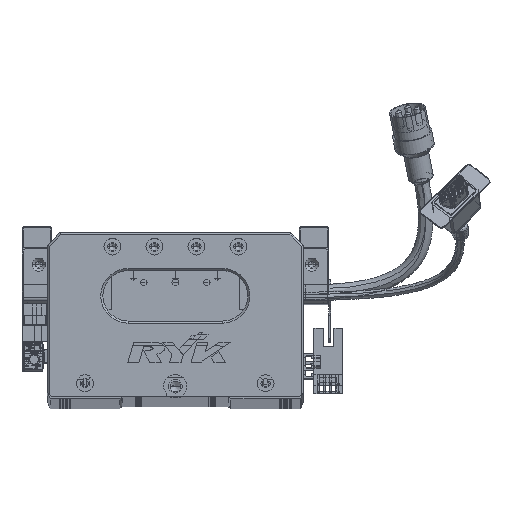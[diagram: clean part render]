
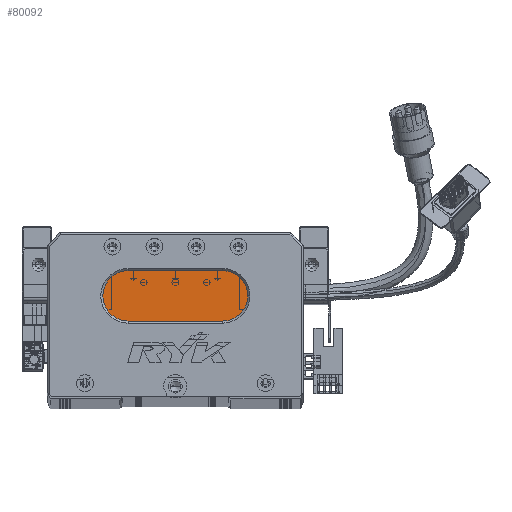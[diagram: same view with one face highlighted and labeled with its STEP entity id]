
A CAD part, top view. The second image highlights one B-rep face of the part: STEP entity #80092.
In plain terms, the highlighted planar face has unit normal (0, 0, 1) as drawn and (0, 0, -1) by its records, which use the part's own axes.
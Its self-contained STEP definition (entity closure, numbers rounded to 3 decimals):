
#1393 = AXIS2_PLACEMENT_3D ( 'NONE', #69492, #59659, #48458 ) ;
#2583 = DIRECTION ( 'NONE',  ( -1., 0., 0. ) ) ;
#3502 = CIRCLE ( 'NONE', #76875, 12. ) ;
#7378 = EDGE_CURVE ( 'NONE', #81448, #64502, #79730, .T. ) ;
#13847 = CARTESIAN_POINT ( 'NONE',  ( 83.5, 48., 13. ) ) ;
#16121 = CARTESIAN_POINT ( 'NONE',  ( 38.5, 36., 13. ) ) ;
#18800 = LINE ( 'NONE', #24728, #101578 ) ;
#20965 = VECTOR ( 'NONE', #54919, 1000. ) ;
#24728 = CARTESIAN_POINT ( 'NONE',  ( 83.5, 36., 13. ) ) ;
#25827 = EDGE_CURVE ( 'NONE', #64502, #91136, #18800, .T. ) ;
#27683 = CARTESIAN_POINT ( 'NONE',  ( 83.5, 60., 13. ) ) ;
#32155 = CARTESIAN_POINT ( 'NONE',  ( 38.5, 48., 13. ) ) ;
#38760 = EDGE_CURVE ( 'NONE', #47704, #81448, #59381, .T. ) ;
#43445 = DIRECTION ( 'NONE',  ( -1., 0., 0. ) ) ;
#47704 = VERTEX_POINT ( 'NONE', #48616 ) ;
#48458 = DIRECTION ( 'NONE',  ( -1., 0., 0. ) ) ;
#48616 = CARTESIAN_POINT ( 'NONE',  ( 38.5, 60., 13. ) ) ;
#49441 = AXIS2_PLACEMENT_3D ( 'NONE', #13847, #102123, #43445 ) ;
#49725 = ORIENTED_EDGE ( 'NONE', *, *, #7378, .T. ) ;
#54890 = VERTEX_POINT ( 'NONE', #102442 ) ;
#54919 = DIRECTION ( 'NONE',  ( 1., 0., 0. ) ) ;
#56156 = CARTESIAN_POINT ( 'NONE',  ( 83.5, 60., 13. ) ) ;
#58788 = DIRECTION ( 'NONE',  ( 0., 0., -1. ) ) ;
#58955 = AXIS2_PLACEMENT_3D ( 'NONE', #88734, #58788, #88318 ) ;
#59381 = LINE ( 'NONE', #56156, #20965 ) ;
#59659 = DIRECTION ( 'NONE',  ( 0., 0., -1. ) ) ;
#62131 = ORIENTED_EDGE ( 'NONE', *, *, #38760, .T. ) ;
#63130 = EDGE_CURVE ( 'NONE', #54890, #47704, #3502, .T. ) ;
#64502 = VERTEX_POINT ( 'NONE', #65286 ) ;
#65286 = CARTESIAN_POINT ( 'NONE',  ( 83.5, 36., 13. ) ) ;
#69492 = CARTESIAN_POINT ( 'NONE',  ( 38.5, 48., 13. ) ) ;
#70785 = DIRECTION ( 'NONE',  ( 0., 0., -1. ) ) ;
#72612 = PLANE ( 'NONE',  #49441 ) ;
#76875 = AXIS2_PLACEMENT_3D ( 'NONE', #32155, #70785, #2583 ) ;
#79730 = CIRCLE ( 'NONE', #58955, 12. ) ;
#80092 = ADVANCED_FACE ( 'NONE', ( #125157 ), #72612, .T. ) ;
#81448 = VERTEX_POINT ( 'NONE', #27683 ) ;
#88318 = DIRECTION ( 'NONE',  ( -1., 0., 0. ) ) ;
#88734 = CARTESIAN_POINT ( 'NONE',  ( 83.5, 48., 13. ) ) ;
#91136 = VERTEX_POINT ( 'NONE', #16121 ) ;
#92987 = ORIENTED_EDGE ( 'NONE', *, *, #63130, .T. ) ;
#99208 = CIRCLE ( 'NONE', #1393, 12. ) ;
#100970 = EDGE_LOOP ( 'NONE', ( #49725, #123482, #120311, #92987, #62131 ) ) ;
#101578 = VECTOR ( 'NONE', #102721, 1000. ) ;
#102123 = DIRECTION ( 'NONE',  ( 0., 0., -1. ) ) ;
#102442 = CARTESIAN_POINT ( 'NONE',  ( 26.5, 48., 13. ) ) ;
#102721 = DIRECTION ( 'NONE',  ( -1., 0., 0. ) ) ;
#113007 = EDGE_CURVE ( 'NONE', #91136, #54890, #99208, .T. ) ;
#120311 = ORIENTED_EDGE ( 'NONE', *, *, #113007, .T. ) ;
#123482 = ORIENTED_EDGE ( 'NONE', *, *, #25827, .T. ) ;
#125157 = FACE_OUTER_BOUND ( 'NONE', #100970, .T. ) ;
